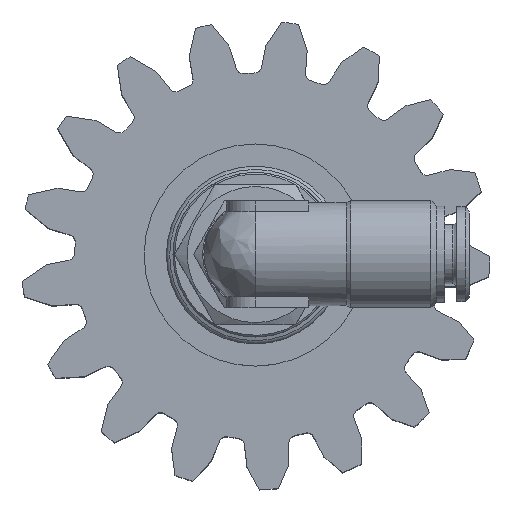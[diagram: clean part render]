
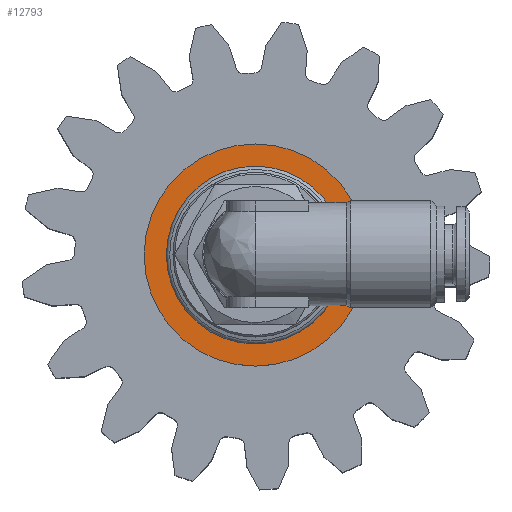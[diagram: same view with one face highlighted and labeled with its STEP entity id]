
A CAD part, top view. The second image highlights one B-rep face of the part: STEP entity #12793.
In plain terms, the highlighted planar face has unit normal (0, 0, 1) as drawn and (0, 1, 0) by its records, which use the part's own axes.
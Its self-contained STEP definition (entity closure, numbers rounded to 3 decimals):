
#1056 = EDGE_CURVE ( 'NONE', #17462, #17462, #19246, .T. ) ;
#3758 = ORIENTED_EDGE ( 'NONE', *, *, #1056, .T. ) ;
#3770 = FACE_OUTER_BOUND ( 'NONE', #13940, .T. ) ;
#5177 = AXIS2_PLACEMENT_3D ( 'NONE', #16419, #25375, #20240 ) ;
#5657 = EDGE_CURVE ( 'NONE', #22316, #22316, #17326, .T. ) ;
#6495 = CARTESIAN_POINT ( 'NONE',  ( 0., 0.6, 10.8 ) ) ;
#7811 = ORIENTED_EDGE ( 'NONE', *, *, #5657, .F. ) ;
#7890 = EDGE_LOOP ( 'NONE', ( #7811 ) ) ;
#8976 = DIRECTION ( 'NONE',  ( 0., 1., 0. ) ) ;
#11782 = AXIS2_PLACEMENT_3D ( 'NONE', #13344, #8976, #28764 ) ;
#12701 = PLANE ( 'NONE',  #23792 ) ;
#12793 = ADVANCED_FACE ( 'NONE', ( #26048, #3770 ), #12701, .F. ) ;
#13344 = CARTESIAN_POINT ( 'NONE',  ( 0., 0.6, 0. ) ) ;
#13940 = EDGE_LOOP ( 'NONE', ( #3758 ) ) ;
#16419 = CARTESIAN_POINT ( 'NONE',  ( 0., 0.6, 0. ) ) ;
#16901 = CARTESIAN_POINT ( 'NONE',  ( 0., 0.6, 13.5 ) ) ;
#17326 = CIRCLE ( 'NONE', #5177, 10.8 ) ;
#17462 = VERTEX_POINT ( 'NONE', #16901 ) ;
#18247 = DIRECTION ( 'NONE',  ( 0., 0., -1. ) ) ;
#19246 = CIRCLE ( 'NONE', #11782, 13.5 ) ;
#20240 = DIRECTION ( 'NONE',  ( 0., 0., 1. ) ) ;
#22316 = VERTEX_POINT ( 'NONE', #6495 ) ;
#22665 = DIRECTION ( 'NONE',  ( 0., -1., 0. ) ) ;
#23792 = AXIS2_PLACEMENT_3D ( 'NONE', #26776, #22665, #18247 ) ;
#25375 = DIRECTION ( 'NONE',  ( 0., 1., 0. ) ) ;
#26048 = FACE_BOUND ( 'NONE', #7890, .T. ) ;
#26776 = CARTESIAN_POINT ( 'NONE',  ( 13.5, 0.6, 0. ) ) ;
#28764 = DIRECTION ( 'NONE',  ( 0., 0., 1. ) ) ;
